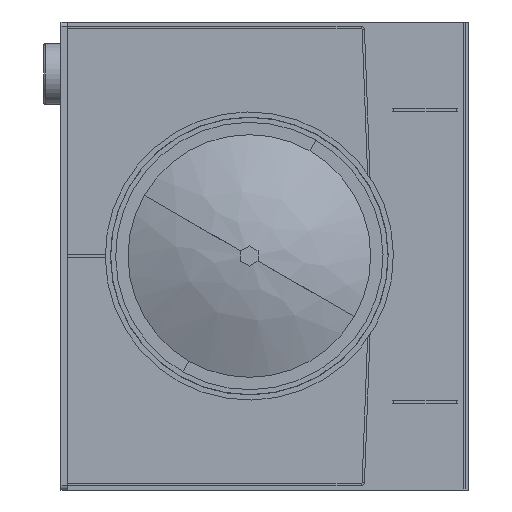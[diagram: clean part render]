
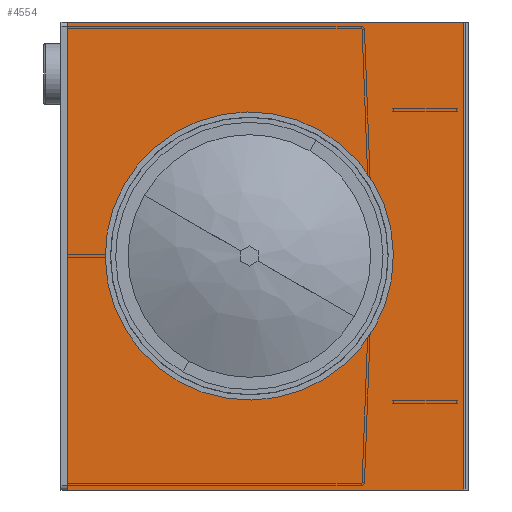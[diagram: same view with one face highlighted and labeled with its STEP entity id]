
A CAD part, left-side view. The second image highlights one B-rep face of the part: STEP entity #4554.
In plain terms, the highlighted planar face has unit normal (-1, 0, 0) as drawn and (1, 0, 0) by its records, which use the part's own axes.
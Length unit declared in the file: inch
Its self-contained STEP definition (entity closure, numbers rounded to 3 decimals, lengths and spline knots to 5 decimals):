
#422 = EDGE_CURVE ( 'NONE', #1332, #5361, #8211, .T. ) ;
#571 = ORIENTED_EDGE ( 'NONE', *, *, #422, .T. ) ;
#836 = VECTOR ( 'NONE', #8950, 39.37008 ) ;
#989 = DIRECTION ( 'NONE',  ( -1., 0., 0. ) ) ;
#1100 = CARTESIAN_POINT ( 'NONE',  ( 0., -11.5625, -13.5 ) ) ;
#1140 = AXIS2_PLACEMENT_3D ( 'NONE', #7229, #3029, #7932 ) ;
#1299 = DIRECTION ( 'NONE',  ( 1., 0., 0. ) ) ;
#1332 = VERTEX_POINT ( 'NONE', #3554 ) ;
#1418 = CARTESIAN_POINT ( 'NONE',  ( 0., -11.5625, 13.5 ) ) ;
#1667 = EDGE_CURVE ( 'NONE', #7006, #7470, #5498, .T. ) ;
#1705 = ORIENTED_EDGE ( 'NONE', *, *, #5150, .T. ) ;
#1830 = CARTESIAN_POINT ( 'NONE',  ( 0., -11.3125, 13.5 ) ) ;
#2050 = ORIENTED_EDGE ( 'NONE', *, *, #8325, .T. ) ;
#2431 = CARTESIAN_POINT ( 'NONE',  ( 0., 1.072, -7. ) ) ;
#2544 = DIRECTION ( 'NONE',  ( 0., 0., -1. ) ) ;
#2549 = VERTEX_POINT ( 'NONE', #3691 ) ;
#2625 = CARTESIAN_POINT ( 'NONE',  ( 0., 1.072, 7. ) ) ;
#2646 = VECTOR ( 'NONE', #6020, 39.37008 ) ;
#2725 = FACE_BOUND ( 'NONE', #4216, .T. ) ;
#2932 = FACE_OUTER_BOUND ( 'NONE', #6919, .T. ) ;
#3029 = DIRECTION ( 'NONE',  ( 1., 0., 0. ) ) ;
#3170 = VECTOR ( 'NONE', #2544, 39.37008 ) ;
#3187 = AXIS2_PLACEMENT_3D ( 'NONE', #5476, #1299, #6191 ) ;
#3554 = CARTESIAN_POINT ( 'NONE',  ( 0., -11.3125, -13.5 ) ) ;
#3583 = CIRCLE ( 'NONE', #3187, 7. ) ;
#3691 = CARTESIAN_POINT ( 'NONE',  ( 0., 11.5625, 13.5 ) ) ;
#3736 = AXIS2_PLACEMENT_3D ( 'NONE', #7282, #989, #5884 ) ;
#4216 = EDGE_LOOP ( 'NONE', ( #7377, #4362 ) ) ;
#4362 = ORIENTED_EDGE ( 'NONE', *, *, #1667, .F. ) ;
#4554 = ADVANCED_FACE ( 'NONE', ( #2725, #2932 ), #7977, .F. ) ;
#5150 = EDGE_CURVE ( 'NONE', #5361, #2549, #6430, .T. ) ;
#5176 = VECTOR ( 'NONE', #6313, 39.37008 ) ;
#5361 = VERTEX_POINT ( 'NONE', #7109 ) ;
#5441 = CARTESIAN_POINT ( 'NONE',  ( 0., 11.5625, 13.5 ) ) ;
#5476 = CARTESIAN_POINT ( 'NONE',  ( 0., 1.072, 0. ) ) ;
#5498 = CIRCLE ( 'NONE', #1140, 7. ) ;
#5601 = ORIENTED_EDGE ( 'NONE', *, *, #6300, .T. ) ;
#5884 = DIRECTION ( 'NONE',  ( 0., 0., 1. ) ) ;
#6003 = CARTESIAN_POINT ( 'NONE',  ( 0., -11.3125, 13.5 ) ) ;
#6020 = DIRECTION ( 'NONE',  ( 0., 1., 0. ) ) ;
#6191 = DIRECTION ( 'NONE',  ( 0., 0., -1. ) ) ;
#6300 = EDGE_CURVE ( 'NONE', #8036, #1332, #8758, .T. ) ;
#6313 = DIRECTION ( 'NONE',  ( 0., -1., 0. ) ) ;
#6430 = LINE ( 'NONE', #5441, #836 ) ;
#6919 = EDGE_LOOP ( 'NONE', ( #5601, #571, #1705, #2050 ) ) ;
#7006 = VERTEX_POINT ( 'NONE', #2625 ) ;
#7061 = EDGE_CURVE ( 'NONE', #7470, #7006, #3583, .T. ) ;
#7109 = CARTESIAN_POINT ( 'NONE',  ( 0., 11.5625, -13.5 ) ) ;
#7229 = CARTESIAN_POINT ( 'NONE',  ( 0., 1.072, 0. ) ) ;
#7282 = CARTESIAN_POINT ( 'NONE',  ( 0., 0., 0. ) ) ;
#7377 = ORIENTED_EDGE ( 'NONE', *, *, #7061, .F. ) ;
#7470 = VERTEX_POINT ( 'NONE', #2431 ) ;
#7932 = DIRECTION ( 'NONE',  ( 0., 0., -1. ) ) ;
#7977 = PLANE ( 'NONE',  #3736 ) ;
#8036 = VERTEX_POINT ( 'NONE', #6003 ) ;
#8211 = LINE ( 'NONE', #1100, #2646 ) ;
#8325 = EDGE_CURVE ( 'NONE', #2549, #8036, #8696, .T. ) ;
#8696 = LINE ( 'NONE', #1418, #5176 ) ;
#8758 = LINE ( 'NONE', #1830, #3170 ) ;
#8950 = DIRECTION ( 'NONE',  ( 0., 0., 1. ) ) ;
